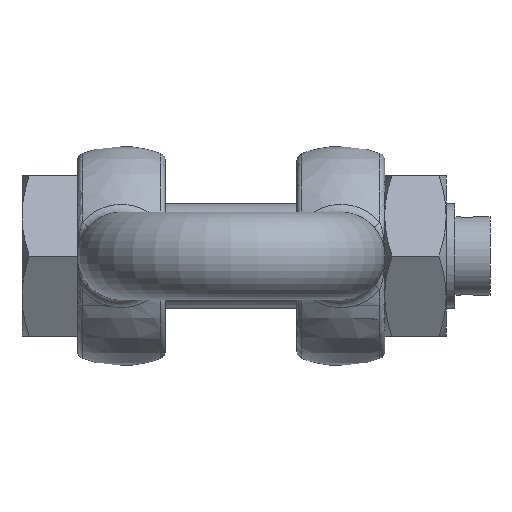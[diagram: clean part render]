
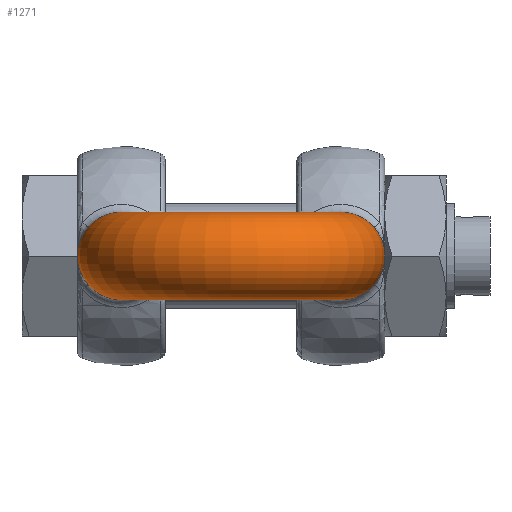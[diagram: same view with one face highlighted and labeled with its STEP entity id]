
A CAD part, front view. The second image highlights one B-rep face of the part: STEP entity #1271.
In plain terms, the highlighted toroidal (fillet/blend) face has major radius 37.5 mm and minor radius 15 mm.
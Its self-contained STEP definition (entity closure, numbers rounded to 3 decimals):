
#122=TOROIDAL_SURFACE('',#1442,37.5,15.);
#233=FACE_OUTER_BOUND('',#320,.T.);
#320=EDGE_LOOP('',(#1018,#1019,#1020,#1021,#1022,#1023));
#477=CIRCLE('',#1440,15.);
#478=CIRCLE('',#1441,15.);
#479=CIRCLE('',#1443,22.5);
#480=CIRCLE('',#1444,15.);
#481=CIRCLE('',#1445,15.);
#570=VERTEX_POINT('',#2884);
#571=VERTEX_POINT('',#2886);
#572=VERTEX_POINT('',#2890);
#573=VERTEX_POINT('',#2892);
#730=EDGE_CURVE('',#570,#571,#477,.T.);
#731=EDGE_CURVE('',#571,#570,#478,.T.);
#732=EDGE_CURVE('',#571,#572,#479,.T.);
#733=EDGE_CURVE('',#572,#573,#480,.T.);
#734=EDGE_CURVE('',#573,#572,#481,.T.);
#1018=ORIENTED_EDGE('',*,*,#731,.F.);
#1019=ORIENTED_EDGE('',*,*,#732,.T.);
#1020=ORIENTED_EDGE('',*,*,#733,.T.);
#1021=ORIENTED_EDGE('',*,*,#734,.T.);
#1022=ORIENTED_EDGE('',*,*,#732,.F.);
#1023=ORIENTED_EDGE('',*,*,#730,.F.);
#1271=ADVANCED_FACE('',(#233),#122,.T.);
#1440=AXIS2_PLACEMENT_3D('',#2887,#1671,#1672);
#1441=AXIS2_PLACEMENT_3D('',#2888,#1673,#1674);
#1442=AXIS2_PLACEMENT_3D('',#2889,#1675,#1676);
#1443=AXIS2_PLACEMENT_3D('',#2891,#1677,#1678);
#1444=AXIS2_PLACEMENT_3D('',#2893,#1679,#1680);
#1445=AXIS2_PLACEMENT_3D('',#2894,#1681,#1682);
#1671=DIRECTION('center_axis',(0.,1.,0.));
#1672=DIRECTION('ref_axis',(1.,0.,0.));
#1673=DIRECTION('center_axis',(0.,1.,0.));
#1674=DIRECTION('ref_axis',(1.,0.,0.));
#1675=DIRECTION('center_axis',(0.,0.,-1.));
#1676=DIRECTION('ref_axis',(-1.,0.,0.));
#1677=DIRECTION('center_axis',(0.,0.,1.));
#1678=DIRECTION('ref_axis',(-1.,0.,0.));
#1679=DIRECTION('center_axis',(0.,-1.,0.));
#1680=DIRECTION('ref_axis',(-1.,0.,0.));
#1681=DIRECTION('center_axis',(0.,-1.,0.));
#1682=DIRECTION('ref_axis',(-1.,0.,0.));
#2884=CARTESIAN_POINT('',(-52.5,52.5,0.));
#2886=CARTESIAN_POINT('',(-22.5,52.5,0.));
#2887=CARTESIAN_POINT('Origin',(-37.5,52.5,0.));
#2888=CARTESIAN_POINT('Origin',(-37.5,52.5,0.));
#2889=CARTESIAN_POINT('Origin',(0.,52.5,0.));
#2890=CARTESIAN_POINT('',(22.5,52.5,0.));
#2891=CARTESIAN_POINT('Origin',(0.,52.5,0.));
#2892=CARTESIAN_POINT('',(52.5,52.5,0.));
#2893=CARTESIAN_POINT('Origin',(37.5,52.5,0.));
#2894=CARTESIAN_POINT('Origin',(37.5,52.5,0.));
